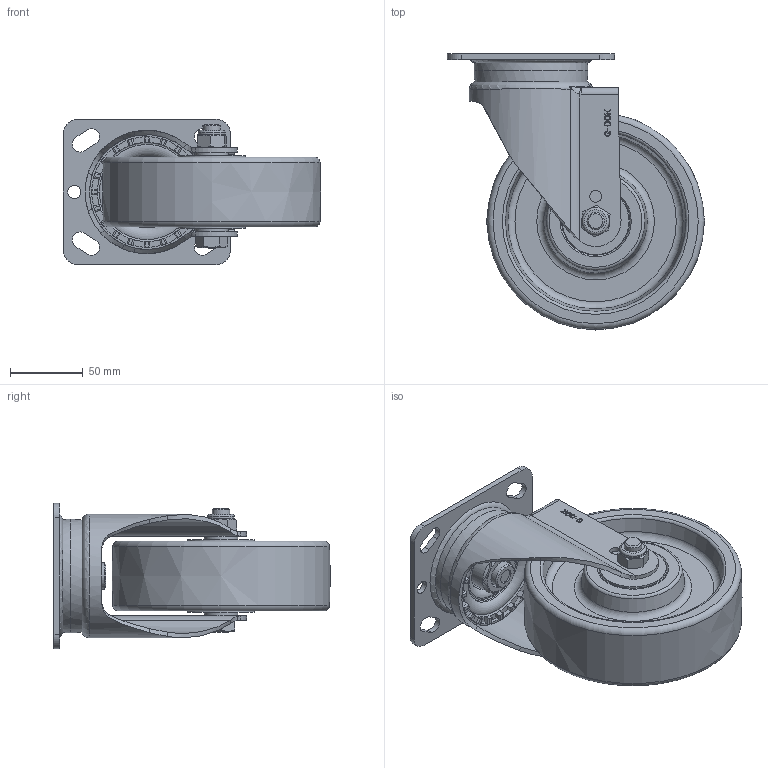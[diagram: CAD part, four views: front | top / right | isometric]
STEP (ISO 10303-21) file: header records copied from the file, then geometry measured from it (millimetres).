
FILE_DESCRIPTION(/* description */ (''),/* implementation_level */ '2;1');
FILE_NAME(/* name */ '\\192.168.10.38\지덕공유\1.기술연구소\2.연구개발 진행중\124.SPH-Series_중하중_2025.02.11\1.도면\2. 3D\홈페이지용\SPH-150-ASF-NYD.stp',/* time_stamp */ '2026-05-19T17:26:28+09:00',/* author */ ('admin'),/* organization */ ('지덕산업'),/* preprocessor_version */ 'ST-DEVELOPER v18.1',/* originating_system */ 'Autodesk Inventor 2021',/* authorisation */ '');
FILE_SCHEMA (('AUTOMOTIVE_DESIGN { 1 0 10303 214 3 1 1 }'));
Length unit declared in the file: millimetre
Products named in the file (1): SPH-150-ASF-NYD
Bounding box: 177 x 189.96 x 100 mm (x, y, z)
Volume: 805964.8 mm3; surface area: 138592.3 mm2
Topology: 1 solids, 1 shells, 1197 faces, 3221 edges, 2114 vertices
Faces by surface type: plane 550, bspline 440, cylinder 142, cone 35, torus 30
Full cylindrical faces by diameter (mm): 8 x2, 9 x2, 10 x1, 12 x1, 18 x2, 18.5 x1, 31 x1, 31.177 x1, 46.001 x2, 47 x2
Entity records: 40310 total; most frequent: CARTESIAN_POINT 13202, ORIENTED_EDGE 6438, DIRECTION 4117, EDGE_CURVE 3219, VERTEX_POINT 2114, LINE 1861, VECTOR 1861, EDGE_LOOP 1305
